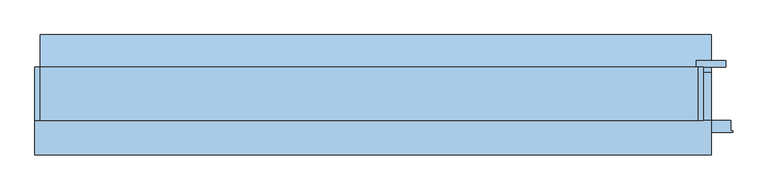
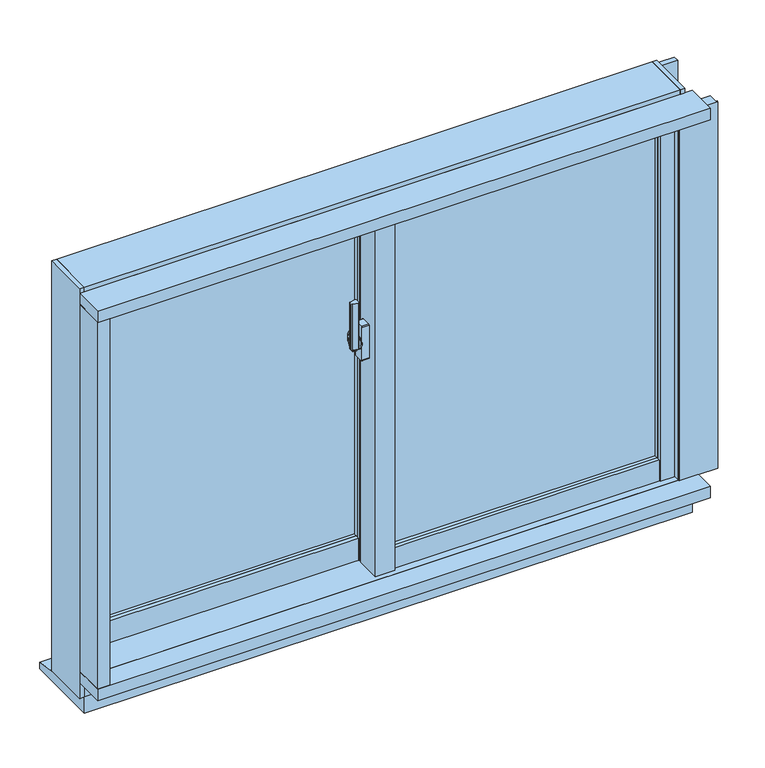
"""IFC4 building model written with IfcOpenShell, lengths in millimetres: window geometry, FNSⅡ100R_非防火_RC枠_単窓 : 引違."""

from ifc_helpers import new_model, si_unit, point, frame, frame_2d, origin, place, context, project, spatial, polyline, circle_curve, trimmed, segment, composite_curve, outline, extrude, faceted_brep, source, transform, mapped, element, save
from ifc_brep_helpers import plane_surface, cylinder_surface, revolved_surface, advanced_brep


def window_7b8d6bdb(model_context):
    return source(origin(), model_context, "Body", "SolidModel", [
        extrude(outline(composite_curve([segment(polyline([(-39.0, -20.4), (-39.0, -28.6)]), True, "CONTINUOUS"), segment(trimmed(circle_curve(frame_2d((-41.0, -28.6)), 2.0), [point((-39.0, -28.6))], [point((-41.3606557, -30.5672131))], False, "CARTESIAN"), True, "CONTINUOUS"), segment(polyline([(-41.3606557, -30.5672131), (-52.3606557, -28.5505464)]), True, "CONTINUOUS"), segment(trimmed(circle_curve(frame_2d((-52.0, -26.5833333)), 2.0), [point((-52.3606557, -28.5505464))], [point((-54.0, -26.5833333))], False, "CARTESIAN"), True, "CONTINUOUS"), segment(polyline([(-54.0, -26.5833333), (-54.0, -22.4166667)]), True, "CONTINUOUS"), segment(trimmed(circle_curve(frame_2d((-52.0, -22.4166667)), 2.0), [point((-54.0, -22.4166667))], [point((-52.3606557, -20.4494536))], False, "CARTESIAN"), True, "CONTINUOUS"), segment(polyline([(-52.3606557, -20.4494536), (-41.3606557, -18.4327869)]), True, "CONTINUOUS"), segment(trimmed(circle_curve(frame_2d((-41.0, -20.4)), 2.0), [point((-41.3606557, -18.4327869))], [point((-39.0, -20.4))], False, "CARTESIAN"), True, "CONTINUOUS")], self_intersect=False)), frame((0.0, 0.0, 1390.0), z_axis=(0.0, 0.0, 1.0), x_axis=(1.0, 0.0, 0.0)), (0.0, 0.0, 1.0), 100.0),
        advanced_brep(
        [(-37.5, -16.1765715, 1421.7333311), (-45.5, -16.1765715, 1421.7333311), (-45.5, -16.5648001, 1420.2844424), (-39.0, -16.5648001, 1420.2844424), (-39.0, -18.3765334, 1413.5229616), (-37.5, -18.3765334, 1413.5229616), (-39.0, -18.3533883, 1379.3190372), (-45.5, -18.3533883, 1379.3190372), (-45.5, -18.092916, 1377.8418256), (-37.5, -18.092916, 1377.8418256), (-37.5, -19.5689255, 1386.2126915), (-39.0, -19.5689255, 1386.2126915)],
        [
            (0, 1),
            (1, 2),
            (2, 3),
            (3, 4),
            (4, 5),
            (5, 0),
            (6, 7),
            (7, 8),
            (8, 9),
            (9, 10),
            (10, 11),
            (11, 6),
            (0, 9, circle_curve(frame((-37.5, -22.0, 1400.0), z_axis=(-1.0, 0.0, 0.0), x_axis=(0.0, 0.25881904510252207, 0.965925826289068)), 22.5)),
            (8, 1, circle_curve(frame((-45.5, -22.0, 1400.0), z_axis=(1.0, 0.0, 0.0), x_axis=(0.0, 0.25881904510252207, 0.965925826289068)), 22.5)),
            (7, 2, circle_curve(frame((-45.5, -22.0, 1400.0), z_axis=(1.0, 0.0, 0.0), x_axis=(0.0, 0.25881904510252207, 0.965925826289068)), 21.0)),
            (6, 3, circle_curve(frame((-39.0, -22.0, 1400.0), z_axis=(1.0, 0.0, 0.0), x_axis=(0.0, 0.25881904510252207, 0.965925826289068)), 21.0)),
            (11, 4, circle_curve(frame((-39.0, -22.0, 1400.0), z_axis=(-1.0, 0.0, 0.0), x_axis=(0.0, -1.0, 0.0)), 14.0)),
            (5, 10, circle_curve(frame((-37.5, -22.0, 1400.0), z_axis=(1.0, 0.0, 0.0), x_axis=(0.0, -1.0, 0.0)), 14.0)),
        ],
        [
            plane_surface(frame((-43.5470497, -22.0, 1400.0), z_axis=(0.0, -0.965925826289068, 0.25881904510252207), x_axis=(0.0, 0.25881904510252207, 0.965925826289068))),
            plane_surface(frame((-43.5470497, -22.0, 1400.0), z_axis=(0.0, -0.9848077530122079, -0.17364817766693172), x_axis=(0.0, 0.17364817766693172, -0.9848077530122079))),
            cylinder_surface(frame((-43.5470497, -22.0, 1400.0), z_axis=(-1.0, 0.0, 0.0), x_axis=(0.0, 0.25881904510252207, 0.965925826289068)), 22.5),
            plane_surface(frame((-45.5, -22.0, 1400.0), z_axis=(-1.0, 0.0, 0.0), x_axis=(0.0, 0.25881904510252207, 0.965925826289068))),
            revolved_surface(polyline([(-45.5, -16.564800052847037, 1420.2844423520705), (-39.0, -16.564800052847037, 1420.2844423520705)]), (-43.5470497, -22.0, 1400.0), (-1.0, 0.0, 0.0)),
            plane_surface(frame((-39.0, -22.0, 1400.0), z_axis=(-1.0, 0.0, 0.0), x_axis=(0.0, 0.25881904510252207, 0.965925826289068))),
            plane_surface(frame((-37.5, -22.0, 1400.0), z_axis=(1.0, 0.0, 0.0), x_axis=(0.0, 0.25881904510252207, 0.965925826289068))),
            cylinder_surface(frame((-37.5, -22.0, 1400.0), z_axis=(-1.0, 0.0, 0.0), x_axis=(0.0, -1.0, 0.0)), 14.0),
        ],
        [
            (0, [[1, 2, 3, 4, 5, 6]]),
            (1, [[7, 8, 9, 10, 11, 12]]),
            (2, [[-1, 13, -9, 14]]),
            (3, [[-2, -14, -8, 15]]),
            (4, [[-3, -15, -7, 16]]),
            (5, [[-16, -12, 17, -4]]),
            (6, [[-13, -6, 18, -10]]),
            (7, [[-17, -11, -18, -5]]),
        ],
    ),
        extrude(outline(composite_curve([segment(trimmed(circle_curve(frame_2d((-22.0, 1400.0)), 11.5), [point((-10.5, 1400.0))], [point((-33.5, 1400.0))], False, "CARTESIAN"), True, "CONTINUOUS"), segment(trimmed(circle_curve(frame_2d((-22.0, 1400.0)), 11.5), [point((-33.5, 1400.0))], [point((-10.5, 1400.0))], False, "CARTESIAN"), True, "CONTINUOUS")], self_intersect=False)), frame((-37.5, 0.0, 0.0), z_axis=(1.0, 0.0, 0.0), x_axis=(0.0, 1.0, 0.0)), (0.0, 0.0, 1.0), 2.5),
        extrude(outline(composite_curve([segment(polyline([(-31.0, 1437.5), (-13.0, 1437.5)]), True, "CONTINUOUS"), segment(trimmed(circle_curve(frame_2d((-13.0, 1435.5)), 2.0), [point((-13.0, 1437.5))], [point((-11.0, 1435.5))], False, "CARTESIAN"), True, "CONTINUOUS"), segment(polyline([(-11.0, 1435.5), (-11.0, 1364.5)]), True, "CONTINUOUS"), segment(trimmed(circle_curve(frame_2d((-13.0, 1364.5)), 2.0), [point((-11.0, 1364.5))], [point((-13.0, 1362.5))], False, "CARTESIAN"), True, "CONTINUOUS"), segment(polyline([(-13.0, 1362.5), (-31.0, 1362.5)]), True, "CONTINUOUS"), segment(trimmed(circle_curve(frame_2d((-31.0, 1364.5)), 2.0), [point((-31.0, 1362.5))], [point((-33.0, 1364.5))], False, "CARTESIAN"), True, "CONTINUOUS"), segment(polyline([(-33.0, 1364.5), (-33.0, 1435.5)]), True, "CONTINUOUS"), segment(trimmed(circle_curve(frame_2d((-31.0, 1435.5)), 2.0), [point((-33.0, 1435.5))], [point((-31.0, 1437.5))], False, "CARTESIAN"), True, "CONTINUOUS")], self_intersect=False)), frame((-35.0, 0.0, 0.0), z_axis=(1.0, 0.0, 0.0), x_axis=(0.0, 1.0, 0.0)), (0.0, 0.0, 1.0), 15.0),
        extrude(outline(polyline([(20.0, -31.0), (568.0, -31.0), (568.0, -37.0), (20.0, -37.0), (20.0, -31.0)])), frame((0.0, 0.0, 948.0), z_axis=(0.0, 0.0, 1.0), x_axis=(1.0, 0.0, 0.0)), (0.0, 0.0, 1.0), 712.0),
        extrude(outline(polyline([(20.0, -13.0), (568.0, -13.0), (568.0, -19.0), (20.0, -19.0), (20.0, -13.0)])), frame((0.0, 0.0, 948.0), z_axis=(0.0, 0.0, 1.0), x_axis=(1.0, 0.0, 0.0)), (0.0, 0.0, 1.0), 712.0),
        extrude(outline(polyline([(-568.0, 27.0), (-20.0, 27.0), (-20.0, 21.0), (-568.0, 21.0), (-568.0, 27.0)])), frame((0.0, 0.0, 948.0), z_axis=(0.0, 0.0, 1.0), x_axis=(1.0, 0.0, 0.0)), (0.0, 0.0, 1.0), 712.0),
        extrude(outline(polyline([(-568.0, 45.0), (-20.0, 45.0), (-20.0, 39.0), (-568.0, 39.0), (-568.0, 45.0)])), frame((0.0, 0.0, 948.0), z_axis=(0.0, 0.0, 1.0), x_axis=(1.0, 0.0, 0.0)), (0.0, 0.0, 1.0), 712.0),
        faceted_brep([(-600.0, 24.0, 1700.0), (-589.5, 24.0, 1700.0), (-589.5, 11.0, 1700.0), (-568.0, 11.0, 1700.0), (-568.0, 53.0, 1700.0), (-600.0, 53.0, 1700.0), (-568.0, 24.0, 860.0), (-600.0, 24.0, 860.0), (-600.0, 53.0, 860.0), (-568.0, 53.0, 860.0), (-568.0, 24.0, 900.0), (-589.5, 24.0, 900.0), (-589.5, 11.0, 900.0), (-568.0, 11.0, 900.0)], [[[0, 1, 2, 3, 4, 5]], [[6, 7, 8, 9]], [[1, 0, 7, 6, 10, 11]], [[2, 1, 11, 12]], [[3, 2, 12, 13]], [[4, 3, 13, 10, 6, 9]], [[5, 4, 9, 8]], [[7, 0, 5, 8]], [[11, 10, 13, 12]]]),
        faceted_brep([(-20.0, 10.5, 1700.0), (-1.8, 10.5, 1700.0), (-1.8, -1.9, 1700.0), (20.0, -1.9, 1700.0), (20.0, 53.0, 1700.0), (-20.0, 53.0, 1700.0), (-20.0, 53.0, 860.0), (20.0, 53.0, 860.0), (20.0, 24.0, 860.0), (-20.0, 24.0, 860.0), (-20.0, 10.5, 900.0), (-1.8, 10.5, 900.0), (-1.8, -1.9, 900.0), (20.0, -1.9, 900.0), (20.0, 24.0, 900.0), (-20.0, 24.0, 900.0)], [[[0, 1, 2, 3, 4, 5]], [[6, 7, 8, 9]], [[1, 0, 10, 11]], [[2, 1, 11, 12]], [[3, 2, 12, 13]], [[4, 3, 13, 14, 8, 7]], [[5, 4, 7, 6]], [[0, 5, 6, 9, 15, 10]], [[14, 15, 9, 8]], [[15, 14, 13, 12, 11, 10]]]),
        extrude(outline(polyline([(-20.0, -1.9), (-15.0, -1.9), (-15.0, -47.0), (15.0, -47.0), (15.0, -43.0), (20.0, -43.0), (20.0, -55.0), (-20.0, -55.0), (-20.0, -1.9)])), frame((0.0, 0.0, 900.0), z_axis=(0.0, 0.0, 1.0), x_axis=(1.0, 0.0, 0.0)), (0.0, 0.0, 1.0), 800.0),
        extrude(outline(polyline([(-15.0, -1.9), (20.0, -1.9), (20.0, -43.0), (15.0, -43.0), (15.0, -47.0), (-15.0, -47.0), (-15.0, -1.9)])), frame((0.0, 0.0, 900.0), z_axis=(0.0, 0.0, 1.0), x_axis=(1.0, 0.0, 0.0)), (0.0, 0.0, 1.0), 800.0),
        extrude(outline(polyline([(568.0, -55.0), (568.0, -47.0), (589.5, -47.0), (589.5, -34.0), (597.0, -34.0), (597.0, -55.0), (568.0, -55.0)])), frame((0.0, 0.0, 903.0), z_axis=(0.0, 0.0, 1.0), x_axis=(1.0, 0.0, 0.0)), (0.0, 0.0, 1.0), 797.0),
        extrude(outline(polyline([(568.0, -5.0), (600.0, -5.0), (600.0, -34.0), (589.5, -34.0), (589.5, -47.0), (568.0, -47.0), (568.0, -5.0)])), frame((0.0, 0.0, 900.0), z_axis=(0.0, 0.0, 1.0), x_axis=(1.0, 0.0, 0.0)), (0.0, 0.0, 1.0), 800.0),
        extrude(outline(polyline([(-1.85, 10.5), (-1.85, 3.0), (-20.0, 3.0), (-20.0, 10.5), (-1.85, 10.5)])), frame((0.0, 0.0, 900.0), z_axis=(0.0, 0.0, 1.0), x_axis=(1.0, 0.0, 0.0)), (0.0, 0.0, 1.0), 800.0),
        extrude(outline(polyline([(-597.0, 24.0), (-589.5, 24.0), (-589.5, 11.0), (-568.0, 11.0), (-568.0, 3.0), (-597.0, 3.0), (-597.0, 24.0)])), frame((0.0, 0.0, 900.0), z_axis=(0.0, 0.0, 1.0), x_axis=(1.0, 0.0, 0.0)), (0.0, 0.0, 1.0), 800.0),
        extrude(outline(polyline([(-53.0, 903.0), (-53.0, 948.0), (-45.0, 948.0), (-45.0, 925.5), (-34.0, 925.5), (-34.0, 903.0), (-53.0, 903.0)])), frame((20.0, 0.0, 0.0), z_axis=(1.0, 0.0, 0.0), x_axis=(0.0, 1.0, 0.0)), (0.0, 0.0, 1.0), 548.0),
        extrude(outline(polyline([(-5.0, 900.0), (-34.0, 900.0), (-34.0, 925.5), (-45.0, 925.5), (-45.0, 948.0), (-5.0, 948.0), (-5.0, 900.0)])), frame((20.0, 0.0, 0.0), z_axis=(1.0, 0.0, 0.0), x_axis=(0.0, 1.0, 0.0)), (0.0, 0.0, 1.0), 548.0),
        extrude(outline(polyline([(5.0, 948.0), (13.0, 948.0), (13.0, 925.5), (24.0, 925.5), (24.0, 900.0), (5.0, 900.0), (5.0, 948.0)])), frame((-568.0, 0.0, 0.0), z_axis=(1.0, 0.0, 0.0), x_axis=(0.0, 1.0, 0.0)), (0.0, 0.0, 1.0), 548.0),
        extrude(outline(polyline([(53.0, 860.0), (24.0, 860.0), (24.0, 925.5), (13.0, 925.5), (13.0, 948.0), (53.0, 948.0), (53.0, 860.0)])), frame((-568.0, 0.0, 0.0), z_axis=(1.0, 0.0, 0.0), x_axis=(0.0, 1.0, 0.0)), (0.0, 0.0, 1.0), 548.0),
        extrude(outline(polyline([(-32.0, 1680.5), (-45.0, 1680.5), (-45.0, 1660.0), (-53.0, 1660.0), (-53.0, 1700.0), (-32.0, 1700.0), (-32.0, 1680.5)])), frame((20.0, 0.0, 0.0), z_axis=(1.0, 0.0, 0.0), x_axis=(0.0, 1.0, 0.0)), (0.0, 0.0, 1.0), 548.0),
        extrude(outline(polyline([(-5.0, 1700.0), (-5.0, 1660.0), (-45.0, 1660.0), (-45.0, 1680.5), (-32.0, 1680.5), (-32.0, 1700.0), (-5.0, 1700.0)])), frame((20.0, 0.0, 0.0), z_axis=(1.0, 0.0, 0.0), x_axis=(0.0, 1.0, 0.0)), (0.0, 0.0, 1.0), 548.0),
        extrude(outline(polyline([(26.0, 1680.5), (13.0, 1680.5), (13.0, 1660.0), (5.0, 1660.0), (5.0, 1700.0), (26.0, 1700.0), (26.0, 1680.5)])), frame((-568.0, 0.0, 0.0), z_axis=(1.0, 0.0, 0.0), x_axis=(0.0, 1.0, 0.0)), (0.0, 0.0, 1.0), 548.0),
        extrude(outline(polyline([(53.0, 1700.0), (53.0, 1660.0), (13.0, 1660.0), (13.0, 1680.5), (26.0, 1680.5), (26.0, 1700.0), (53.0, 1700.0)])), frame((-568.0, 0.0, 0.0), z_axis=(1.0, 0.0, 0.0), x_axis=(0.0, 1.0, 0.0)), (0.0, 0.0, 1.0), 548.0),
        extrude(outline(polyline([(-15.0, 25.3), (-15.0, -23.1), (-600.0, -23.1), (-600.0, 25.3), (-15.0, 25.3)])), frame((0.0, 0.0, 1700.0), z_axis=(0.0, 0.0, 1.0), x_axis=(1.0, 0.0, 0.0)), (0.0, 0.0, 1.0), 25.0),
        faceted_brep([(615.0, 25.3, 1725.0), (615.0, -45.0, 1725.0), (-615.0, -45.0, 1725.0), (-615.0, 25.3, 1725.0), (-15.0, 25.3, 1725.0), (-15.0, -23.1, 1725.0), (600.0, -23.1, 1725.0), (600.0, 25.3, 1725.0), (615.0, 25.3, 1700.0), (600.0, 25.3, 1700.0), (-615.0, 25.3, 1700.0), (-15.0, 25.3, 1700.0), (615.0, 55.0, 1700.0), (600.0, -23.1, 1700.0), (-15.0, -23.1, 1700.0), (-615.0, 55.0, 1700.0), (615.0, 55.0, 1735.0), (-615.0, 55.0, 1735.0), (615.0, -45.0, 1735.0), (-615.0, -45.0, 1735.0)], [[[0, 1, 2, 3, 4, 5, 6, 7]], [[8, 0, 7, 9]], [[3, 10, 11, 4]], [[12, 8, 9, 13, 14, 11, 10, 15]], [[16, 12, 15, 17]], [[18, 16, 17, 19]], [[1, 18, 19, 2]], [[12, 16, 18, 1, 0, 8]], [[15, 10, 3, 2, 19, 17]], [[6, 13, 9, 7]], [[11, 14, 5, 4]], [[13, 6, 5, 14]]]),
        extrude(outline(polyline([(-23.1, 1700.0), (-65.0, 1700.0), (-65.0, 1703.0), (-45.0, 1703.0), (-45.0, 1725.0), (-23.1, 1725.0), (-23.1, 1700.0)])), frame((-600.0, 0.0, 0.0), z_axis=(1.0, 0.0, 0.0), x_axis=(0.0, 1.0, 0.0)), (0.0, 0.0, 1.0), 1200.0),
        faceted_brep([(600.0, -45.0, 1720.0), (615.0, -45.0, 1720.0), (615.0, -40.5, 1720.0), (600.0, -40.5, 1720.0), (600.0, -65.0, 900.0), (600.0, -40.5, 900.0), (615.0, -40.5, 900.0), (615.0, -45.0, 900.0), (603.0, -45.0, 900.0), (603.0, -65.0, 900.0), (603.0, -65.0, 1703.0), (600.0, -65.0, 1703.0), (603.0, -45.0, 1703.0), (600.0, -45.0, 1703.0)], [[[0, 1, 2, 3]], [[4, 5, 6, 7, 8, 9]], [[4, 9, 10, 11]], [[9, 8, 12, 10]], [[0, 13, 12, 8, 7, 1]], [[2, 1, 7, 6]], [[3, 2, 6, 5]], [[5, 4, 11, 13, 0, 3]], [[12, 13, 11, 10]]]),
        faceted_brep([(-615.0, -45.0, 1720.0), (-600.0, -45.0, 1720.0), (-600.0, 21.0, 1720.0), (-615.0, 21.0, 1720.0), (-615.0, -45.0, 900.0), (-615.0, 21.0, 900.0), (-600.0, 21.0, 900.0), (-600.0, -65.0, 900.0), (-603.0, -65.0, 900.0), (-603.0, -45.0, 900.0), (-603.0, -45.0, 1703.0), (-600.0, -45.0, 1703.0), (-603.0, -65.0, 1703.0), (-600.0, -65.0, 1703.0)], [[[0, 1, 2, 3]], [[4, 5, 6, 7, 8, 9]], [[4, 9, 10, 11, 1, 0]], [[9, 8, 12, 10]], [[8, 7, 13, 12]], [[7, 6, 2, 1, 11, 13]], [[3, 2, 6, 5]], [[4, 0, 3, 5]], [[11, 10, 12, 13]]]),
        faceted_brep([(-625.0, 55.0, 1735.0), (-625.0, -45.0, 1735.0), (-615.0, -45.0, 1735.0), (-615.0, 55.0, 1735.0), (-625.0, 55.0, 840.0), (-615.0, 55.0, 840.0), (-615.0, -45.0, 840.0), (-625.0, -45.0, 840.0), (-615.0, 55.0, 849.0), (-615.0, 21.0, 849.0), (-615.0, 21.0, 1700.0), (-615.0, 55.0, 1700.0), (-600.0, 55.0, 1700.0), (-600.0, 55.0, 849.0), (-600.0, 21.0, 1700.0), (-600.0, 21.0, 849.0)], [[[0, 1, 2, 3]], [[4, 5, 6, 7]], [[1, 0, 4, 7]], [[2, 1, 7, 6]], [[3, 2, 6, 5, 8, 9, 10, 11]], [[0, 3, 11, 12, 13, 8, 5, 4]], [[12, 11, 10, 14]], [[13, 15, 9, 8]], [[14, 10, 9, 15]], [[12, 14, 15, 13]]]),
        faceted_brep([(615.0, -45.0, 1735.0), (625.0, -45.0, 1735.0), (625.0, 55.0, 1735.0), (615.0, 55.0, 1735.0), (615.0, -45.0, 840.0), (615.0, 55.0, 840.0), (625.0, 55.0, 840.0), (625.0, -45.0, 840.0), (615.0, -40.5, 1700.0), (600.0, -40.5, 1700.0), (600.0, -40.5, 849.0), (615.0, -40.5, 849.0), (600.0, 55.0, 1700.0), (600.0, 55.0, 849.0), (615.0, 55.0, 1700.0), (615.0, 55.0, 849.0)], [[[0, 1, 2, 3]], [[4, 5, 6, 7]], [[8, 9, 10, 11]], [[9, 12, 13, 10]], [[9, 8, 14, 12]], [[10, 13, 15, 11]], [[1, 0, 4, 7]], [[2, 1, 7, 6]], [[3, 2, 6, 5, 15, 13, 12, 14]], [[0, 3, 14, 8, 11, 15, 5, 4]]]),
        faceted_brep([(615.0, -45.0, 884.0), (615.0, 21.0, 884.0), (-615.0, 21.0, 884.0), (-615.0, -45.0, 884.0), (600.0, -17.75, 884.0), (600.0, -36.2, 884.0), (-15.0, -36.2, 884.0), (-15.0, -17.75, 884.0), (615.0, 21.0, 849.0), (-615.0, 21.0, 849.0), (615.0, 55.0, 849.0), (-615.0, 55.0, 849.0), (615.0, 55.0, 840.0), (615.0, -45.0, 840.0), (-615.0, -45.0, 840.0), (-615.0, 55.0, 840.0), (600.0, -36.2, 900.0), (600.0, -17.75, 900.0), (-15.0, -36.2, 900.0), (-15.0, -17.75, 900.0)], [[[0, 1, 2, 3], [4, 5, 6, 7]], [[1, 8, 9, 2]], [[8, 10, 11, 9]], [[12, 13, 14, 15]], [[12, 10, 8, 1, 0, 13]], [[15, 14, 3, 2, 9, 11]], [[13, 0, 3, 14]], [[10, 12, 15, 11]], [[16, 5, 4, 17]], [[18, 19, 7, 6]], [[5, 16, 18, 6]], [[17, 4, 7, 19]], [[16, 17, 19, 18]]]),
        faceted_brep([(603.0, -65.0, 900.0), (603.0, -65.0, 897.0), (603.0, -45.0, 897.0), (603.0, -45.0, 884.0), (603.0, -40.5, 884.0), (603.0, -40.5, 900.0), (-603.0, -45.0, 884.0), (-603.0, -45.0, 897.0), (-603.0, -65.0, 897.0), (-603.0, -65.0, 900.0), (-603.0, -36.2, 900.0), (-603.0, -36.2, 884.0), (600.0, -40.5, 900.0), (600.0, -36.2, 900.0), (-15.0, -36.2, 900.0), (-15.0, 21.0, 900.0), (-600.0, 21.0, 900.0), (-600.0, -36.2, 900.0), (-600.0, -36.2, 884.0), (600.0, -36.2, 884.0), (-15.0, -36.2, 884.0), (-600.0, 21.0, 884.0), (-15.0, 21.0, 884.0), (600.0, -40.5, 884.0)], [[[0, 1, 2, 3, 4, 5]], [[6, 7, 8, 9, 10, 11]], [[3, 2, 7, 6]], [[2, 1, 8, 7]], [[1, 0, 9, 8]], [[10, 9, 0, 5, 12, 13, 14, 15, 16, 17]], [[11, 10, 17, 18]], [[13, 19, 20, 14]], [[6, 11, 18, 21, 22, 20, 19, 23, 4, 3]], [[12, 23, 19, 13]], [[23, 12, 5, 4]], [[15, 14, 20, 22]], [[16, 21, 18, 17]], [[15, 22, 21, 16]]]),
        extrude(outline(polyline([(-110.0, 900.0), (-65.0, 900.0), (-65.0, 897.0), (-45.0, 897.0), (-45.0, 875.0), (-110.0, 875.0), (-110.0, 900.0)])), frame((-625.0, 0.0, 0.0), z_axis=(1.0, 0.0, 0.0), x_axis=(0.0, 1.0, 0.0)), (0.0, 0.0, 1.0), 1265.0),
        extrude(outline(polyline([(45.0, 840.0), (55.0, 840.0), (55.0, 828.4285714), (45.0, 830.0), (45.0, 840.0)])), frame((-615.0, 0.0, 0.0), z_axis=(1.0, 0.0, 0.0), x_axis=(0.0, 1.0, 0.0)), (0.0, 0.0, 1.0), 1255.0),
        extrude(outline(polyline([(-45.0, 804.0), (-45.0, 840.0), (45.0, 840.0), (45.0, 830.0), (115.0, 819.0), (115.0, 804.0), (-45.0, 804.0)])), frame((-615.0, 0.0, 0.0), z_axis=(1.0, 0.0, 0.0), x_axis=(0.0, 1.0, 0.0)), (0.0, 0.0, 1.0), 1255.0),
        extrude(outline(polyline([(-603.0, -45.0), (-603.0, -65.0), (-600.0, -65.0), (-600.0, -110.0), (-625.0, -110.0), (-625.0, -45.0), (-603.0, -45.0)])), frame((0.0, 0.0, 900.0), z_axis=(0.0, 0.0, 1.0), x_axis=(1.0, 0.0, 0.0)), (0.0, 0.0, 1.0), 800.0),
        extrude(outline(polyline([(603.0, -65.0), (603.0, -45.0), (677.0, -45.0), (677.0, -65.0), (680.0, -65.0), (680.0, -67.5), (600.0, -67.5), (600.0, -65.0), (603.0, -65.0)])), frame((0.0, 0.0, 900.0), z_axis=(0.0, 0.0, 1.0), x_axis=(1.0, 0.0, 0.0)), (0.0, 0.0, 1.0), 800.0),
        extrude(outline(polyline([(667.5, 55.0), (612.5, 55.0), (612.5, 67.0), (667.5, 67.0), (667.5, 55.0)])), frame((0.0, 0.0, 840.0), z_axis=(0.0, 0.0, 1.0), x_axis=(1.0, 0.0, 0.0)), (0.0, 0.0, 1.0), 880.0),
        extrude(outline(polyline([(-110.0, 1725.0), (-45.0, 1725.0), (-45.0, 1703.0), (-65.0, 1703.0), (-65.0, 1700.0), (-110.0, 1700.0), (-110.0, 1725.0)])), frame((-625.0, 0.0, 0.0), z_axis=(1.0, 0.0, 0.0), x_axis=(0.0, 1.0, 0.0)), (0.0, 0.0, 1.0), 1265.0),
    ])


if __name__ == "__main__":
    model = new_model("IFC4")
    model_context = context("Model", 3, world=origin())
    ifc_project = project(units=[si_unit("LENGTHUNIT", "METRE", prefix="MILLI")], contexts=[model_context])
    site = spatial("IfcSite", under=ifc_project)
    building = spatial("IfcBuilding", under=site)
    placement = place(None, origin())
    window_shape = window_7b8d6bdb(model_context)
    element("IfcWindow", 1, ObjectType="FNSⅡ100R_非防火_RC枠_単窓 : 引違", at=placement, inside=building, context=model_context, shape_type="MappedRepresentation", body=[
        mapped(window_shape, transform((0.0, 0.0, 0.0), x_axis=(1.0, 0.0, 0.0), y_axis=(0.0, 1.0, 0.0), z_axis=(0.0, 0.0, 1.0))),
    ])
    save(model, "model.ifc")
